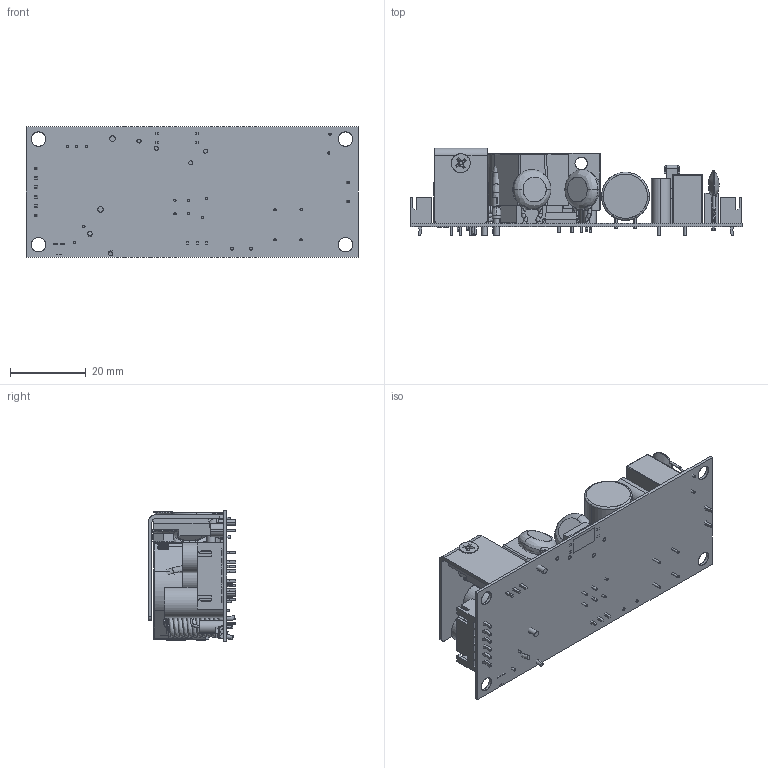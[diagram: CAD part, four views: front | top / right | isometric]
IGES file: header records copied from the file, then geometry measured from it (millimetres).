
Start section: SolidWorks IGES file using analytic representation for surfaces
Global section: file name: C:\Users\ksmith.XPNA\Desktop\EML30-T\EML30 SERIES-T.IGS; native system: SolidWorks 2015; preprocessor: SolidWorks 2015; author: ksmith; date: 150821.084628; units: inch
Bounding box: 87.9 x 23.19 x 34.6 mm (x, y, z)
Surface area: 26146.4 mm2 (no closed solid volume)
Topology: 0 solids, 0 shells, 1469 faces, 13713 edges, 13703 vertices
Faces by surface type: bspline 1096, revolution 373
